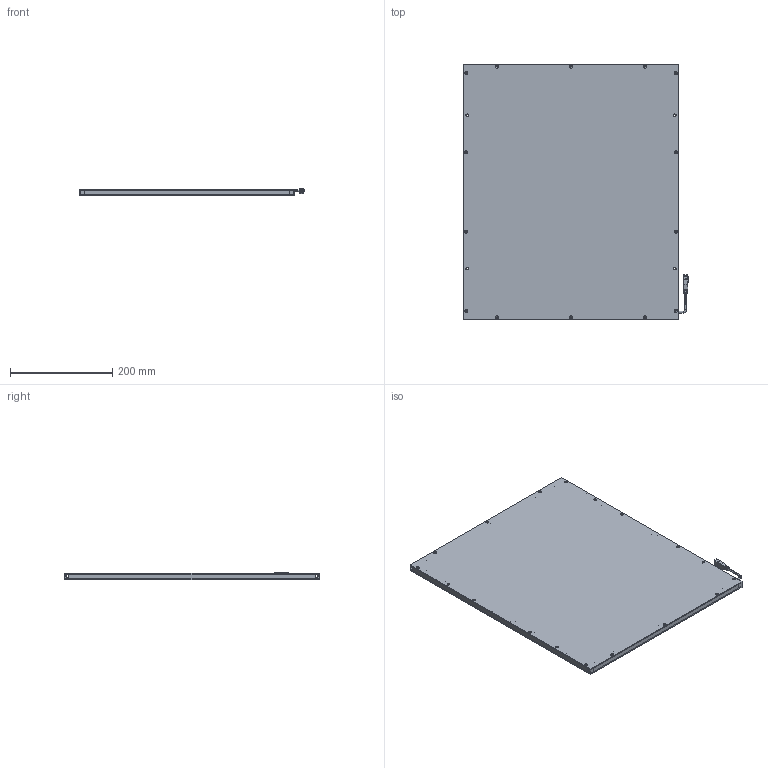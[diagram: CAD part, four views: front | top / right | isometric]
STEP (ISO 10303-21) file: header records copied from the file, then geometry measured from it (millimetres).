
FILE_DESCRIPTION (( 'STEP AP203' ), '1' );
FILE_NAME ('CRT-FLC460380-¼òÒ×3DÍ¼.STEP', '2021-11-29T02:53:56', ( 'Admin' ), ( '' ), 'SwSTEP 2.0', 'SolidWorks 2018', '' );
FILE_SCHEMA (( 'CONFIG_CONTROL_DESIGN' ));
Length unit declared in the file: millimetre
Products named in the file (1): CRT-FLC460380-潠眢3D芞
Bounding box: 439.45 x 500 x 14.85 mm (x, y, z)
Surface area: 499763.8 mm2 (no closed solid volume)
Topology: 0 solids, 12 shells, 263 faces, 912 edges, 640 vertices
Faces by surface type: plane 114, cylinder 112, cone 31, bspline 5, torus 1
Entity records: 10242 total; most frequent: CARTESIAN_POINT 2323, DIRECTION 1695, ORIENTED_EDGE 1387, EDGE_CURVE 912, VERTEX_POINT 640, AXIS2_PLACEMENT_3D 570, VECTOR 555, LINE 555
